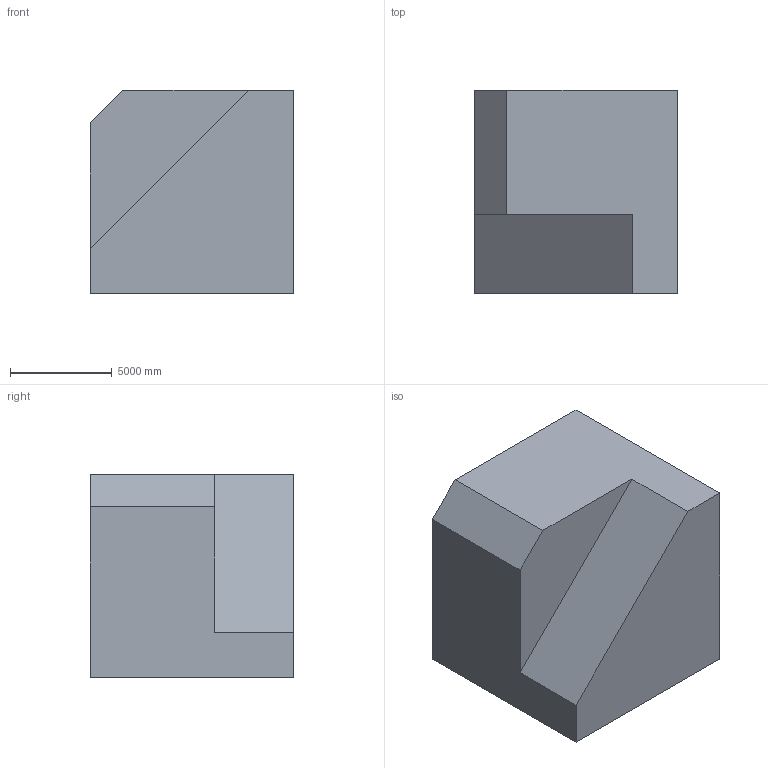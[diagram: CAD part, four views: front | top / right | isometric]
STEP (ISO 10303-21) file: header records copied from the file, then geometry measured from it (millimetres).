
FILE_DESCRIPTION (( 'STEP AP203' ), '1' );
FILE_NAME ('1086.STEP', '2022-08-18T12:42:09', ( 'user' ), ( '' ), 'SwSTEP 2.0', 'SolidWorks 2021', '' );
FILE_SCHEMA (( 'CONFIG_CONTROL_DESIGN' ));
Length unit declared in the file: centimetre
Products named in the file (1): 1086
Bounding box: 10000 x 10000 x 10000 mm (x, y, z)
Volume: 874527833642.4 mm3; surface area: 574044194.8 mm2
Topology: 1 solids, 1 shells, 9 faces, 21 edges, 14 vertices
Faces by surface type: plane 9
Entity records: 332 total; most frequent: CARTESIAN_POINT 45, ORIENTED_EDGE 42, DIRECTION 41, EDGE_CURVE 21, LINE 21, VECTOR 21, VERTEX_POINT 14, AXIS2_PLACEMENT_3D 10
